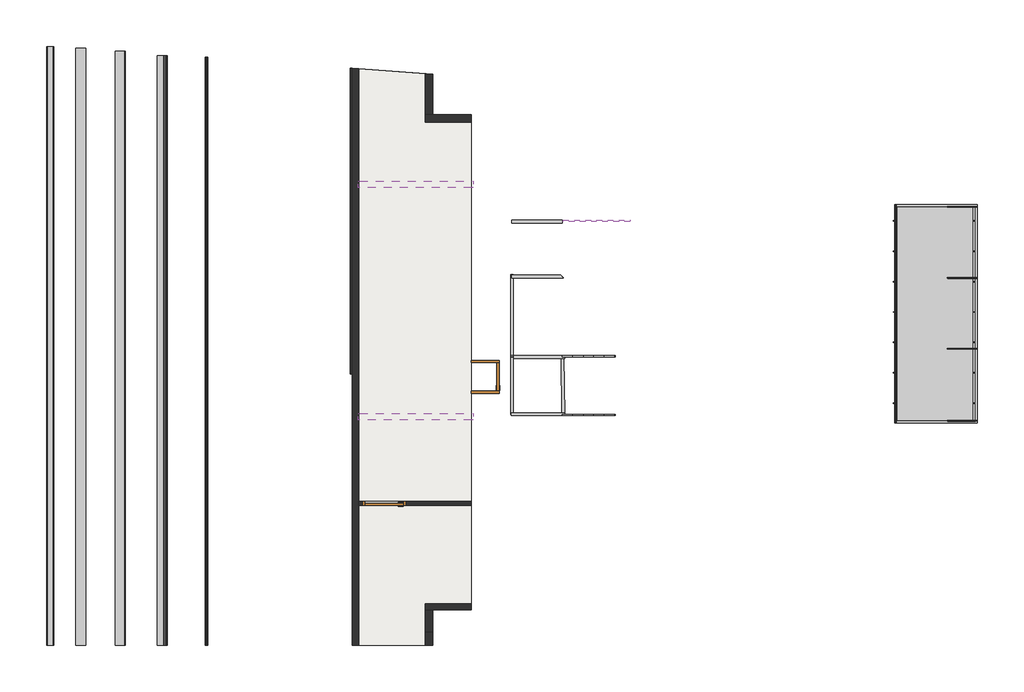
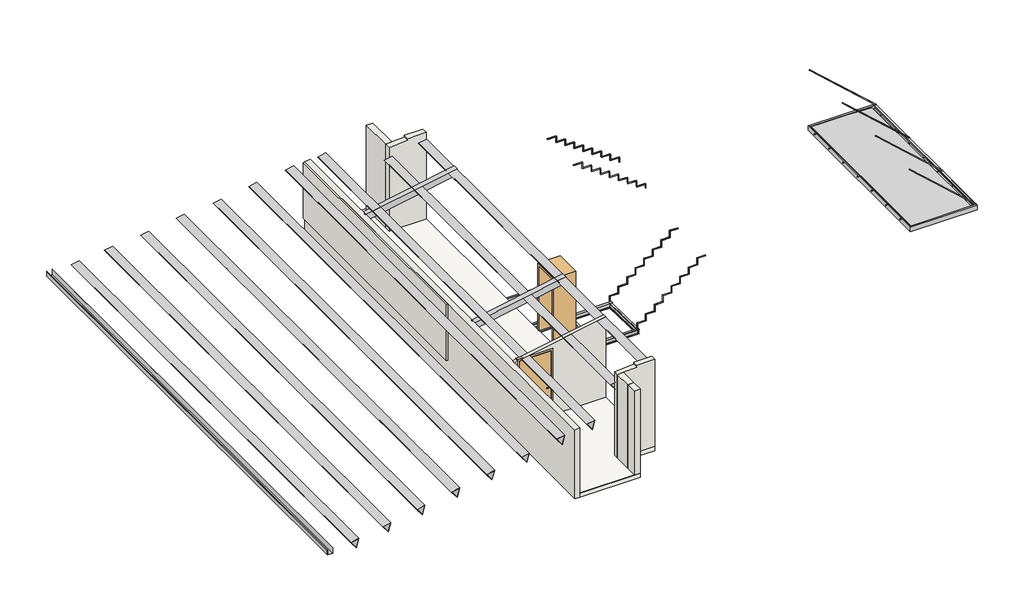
# One storey, incomplete: 12 beams, 8 walls, 2 doors, 2 slabs, 1 pipe segment, 1 proxy.
"""IFC4 building model written with IfcOpenShell, lengths in millimetres."""

from ifc_helpers import new_model, si_unit, point, frame, frame_2d, origin, place, context, project, spatial, polyline, circle_curve, ellipse_curve, trimmed, segment, composite_curve, outline, extrude, faceted_brep, transform, mapped, element, save
from ifc_brep_helpers import plane_surface, cylinder_surface, revolved_surface, advanced_brep
from components import beam_c8093c8f, beam_2914460d, beam_b3c854cd, beam_200x150_8261f542, arq_ale_ext_tipo_1_15934bc5, door_2f19a653, door_720fac4b

model = new_model("IFC4")

# Units and contexts
model_context = context("Model", 3, world=origin())
ifc_project = project(units=[si_unit("LENGTHUNIT", "METRE", prefix="MILLI")], contexts=[model_context])

# Site, building, storey
site = spatial("IfcSite", under=ifc_project)
building = spatial("IfcBuilding", under=site)
storey = spatial("IfcBuildingStorey", under=building, Name="Entrepiso_NPT", Elevation=3210.0)

# Beams
placement = place(None, origin())
beam_shape = beam_c8093c8f(model_context)
element("IfcBeam", 1, ObjectType="Armazón estructural 7 : Armazón estructural 7", at=placement, inside=storey, context=model_context, shape_type="MappedRepresentation", body=[
    mapped(beam_shape, transform((0.0, 0.0, 0.0), x_axis=(1.0, 0.0, 0.0), y_axis=(0.0, 1.0, 0.0), z_axis=(0.0, 0.0, 1.0))),
])
beam_2_shape = beam_2914460d(model_context)
element("IfcBeam", 2, ObjectType="Armazón estructural 10 : Armazón estructural 10", at=placement, inside=storey, context=model_context, shape_type="MappedRepresentation", body=[
    mapped(beam_2_shape, transform((0.0, 0.0, 0.0), x_axis=(1.0, 0.0, 0.0), y_axis=(0.0, 1.0, 0.0), z_axis=(0.0, 0.0, 1.0))),
])
beam_3_shape = beam_b3c854cd(model_context)
element("IfcBeam", 3, ObjectType="Armazón estructural 6 : Armazón estructural 3", at=placement, inside=storey, context=model_context, shape_type="MappedRepresentation", body=[
    mapped(beam_3_shape, transform((0.0, 0.0, 0.0), x_axis=(1.0, 0.0, 0.0), y_axis=(0.0, 1.0, 0.0), z_axis=(0.0, 0.0, 1.0))),
])
beam_200x150_shape = beam_200x150_8261f542(model_context)
element("IfcBeam", 4, ObjectType="Hormigón-Viga rectangular : 200x150", at=placement, inside=storey, context=model_context, shape_type="MappedRepresentation", body=[
    mapped(beam_200x150_shape, transform((4007.5698987, 7114.9690313, 5411.636762), x_axis=(0.9836323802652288, 0.0, 0.18018695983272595), y_axis=(0.0, 1.0, 0.0), z_axis=(-0.18018695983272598, 0.0, 0.9836323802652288))),
])
element("IfcBeam", 5, ObjectType="Hormigón-Viga rectangular : 200x150", at=placement, inside=storey, context=model_context, shape_type="MappedRepresentation", body=[
    mapped(beam_200x150_shape, transform((4007.5698987, 1469.0183345, 5411.636762), x_axis=(0.9836323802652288, 0.0, 0.18018695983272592), y_axis=(0.0, 1.0, 0.0), z_axis=(-0.18018695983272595, 0.0, 0.9836323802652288))),
])
element("IfcBeam", 6, ObjectType="IPN - Secciones en I con alas cónicas : IPN 140", at=placement, inside=storey, context=model_context, shape_type="SweptSolid", body=[
    extrude(outline(composite_curve([segment(polyline([(1496.342606, 3239.725), (1562.342606, 3239.725), (1562.342606, 3236.3921583)]), True, "CONTINUOUS"), segment(trimmed(circle_curve(frame_2d((1558.942606, 3236.3921583)), 3.4), [point((1562.342606, 3236.3921583))], [point((1559.4140086, 3233.0249964))], False, "CARTESIAN"), True, "CONTINUOUS"), segment(polyline([(1559.4140086, 3233.0249964), (1537.1023132, 3229.901359)]), True, "CONTINUOUS"), segment(trimmed(circle_curve(frame_2d((1537.892606, 3224.2564111)), 5.7), [point((1537.1023132, 3229.901359))], [point((1532.192606, 3224.2564111))], True, "CARTESIAN"), True, "CONTINUOUS"), segment(polyline([(1532.192606, 3224.2564111), (1532.192606, 3115.1935889)]), True, "CONTINUOUS"), segment(trimmed(circle_curve(frame_2d((1537.892606, 3115.1935889)), 5.7), [point((1532.192606, 3115.1935889))], [point((1537.1023132, 3109.548641))], True, "CARTESIAN"), True, "CONTINUOUS"), segment(polyline([(1537.1023132, 3109.548641), (1559.4140086, 3106.4250036)]), True, "CONTINUOUS"), segment(trimmed(circle_curve(frame_2d((1558.942606, 3103.0578417)), 3.4), [point((1559.4140086, 3106.4250036))], [point((1562.342606, 3103.0578417))], False, "CARTESIAN"), True, "CONTINUOUS"), segment(polyline([(1562.342606, 3103.0578417), (1562.342606, 3099.725), (1496.342606, 3099.725), (1496.342606, 3103.0578417)]), True, "CONTINUOUS"), segment(trimmed(circle_curve(frame_2d((1499.742606, 3103.0578417)), 3.4), [point((1496.342606, 3103.0578417))], [point((1499.2712033, 3106.4250036))], False, "CARTESIAN"), True, "CONTINUOUS"), segment(polyline([(1499.2712033, 3106.4250036), (1521.5828987, 3109.548641)]), True, "CONTINUOUS"), segment(trimmed(circle_curve(frame_2d((1520.792606, 3115.1935889)), 5.7), [point((1521.5828987, 3109.548641))], [point((1526.492606, 3115.1935889))], True, "CARTESIAN"), True, "CONTINUOUS"), segment(polyline([(1526.492606, 3115.1935889), (1526.492606, 3224.2564111)]), True, "CONTINUOUS"), segment(trimmed(circle_curve(frame_2d((1520.792606, 3224.2564111)), 5.7), [point((1526.492606, 3224.2564111))], [point((1521.5828987, 3229.901359))], True, "CARTESIAN"), True, "CONTINUOUS"), segment(polyline([(1521.5828987, 3229.901359), (1499.2712033, 3233.0249964)]), True, "CONTINUOUS"), segment(trimmed(circle_curve(frame_2d((1499.742606, 3236.3921583)), 3.4), [point((1499.2712033, 3233.0249964))], [point((1496.342606, 3236.3921583))], False, "CARTESIAN"), True, "CONTINUOUS"), segment(polyline([(1496.342606, 3236.3921583), (1496.342606, 3239.725)]), True, "CONTINUOUS")], self_intersect=False)), frame((6328.8126262, 0.0, 0.0), z_axis=(1.0, 0.0, 0.0), x_axis=(0.0, 1.0, 0.0)), (0.0, 0.0, 1.0), 1299.5719221),
])
element("IfcBeam", 7, ObjectType="IPN - Secciones en I con alas cónicas : IPN 140", at=placement, inside=storey, context=model_context, shape_type="SweptSolid", body=[
    extrude(outline(composite_curve([segment(polyline([(3239.725, 6380.8126262), (3239.725, 6314.8126262), (3236.3921583, 6314.8126262)]), True, "CONTINUOUS"), segment(trimmed(circle_curve(frame_2d((3236.3921583, 6318.2126262)), 3.4), [point((3236.3921583, 6314.8126262))], [point((3233.0249964, 6317.7412235))], False, "CARTESIAN"), True, "CONTINUOUS"), segment(polyline([(3233.0249964, 6317.7412235), (3229.901359, 6340.0529189)]), True, "CONTINUOUS"), segment(trimmed(circle_curve(frame_2d((3224.2564111, 6339.2626262)), 5.7), [point((3229.901359, 6340.0529189))], [point((3224.2564111, 6344.9626262))], True, "CARTESIAN"), True, "CONTINUOUS"), segment(polyline([(3224.2564111, 6344.9626262), (3115.1935889, 6344.9626262)]), True, "CONTINUOUS"), segment(trimmed(circle_curve(frame_2d((3115.1935889, 6339.2626262)), 5.7), [point((3115.1935889, 6344.9626262))], [point((3109.548641, 6340.0529189))], True, "CARTESIAN"), True, "CONTINUOUS"), segment(polyline([(3109.548641, 6340.0529189), (3106.4250036, 6317.7412235)]), True, "CONTINUOUS"), segment(trimmed(circle_curve(frame_2d((3103.0578417, 6318.2126262)), 3.4), [point((3106.4250036, 6317.7412235))], [point((3103.0578417, 6314.8126262))], False, "CARTESIAN"), True, "CONTINUOUS"), segment(polyline([(3103.0578417, 6314.8126262), (3099.725, 6314.8126262), (3099.725, 6380.8126262), (3103.0578417, 6380.8126262)]), True, "CONTINUOUS"), segment(trimmed(circle_curve(frame_2d((3103.0578417, 6377.4126262)), 3.4), [point((3103.0578417, 6380.8126262))], [point((3106.4250036, 6377.8840289))], False, "CARTESIAN"), True, "CONTINUOUS"), segment(polyline([(3106.4250036, 6377.8840289), (3109.548641, 6355.5723335)]), True, "CONTINUOUS"), segment(trimmed(circle_curve(frame_2d((3115.1935889, 6356.3626262)), 5.7), [point((3109.548641, 6355.5723335))], [point((3115.1935889, 6350.6626262))], True, "CARTESIAN"), True, "CONTINUOUS"), segment(polyline([(3115.1935889, 6350.6626262), (3224.2564111, 6350.6626262)]), True, "CONTINUOUS"), segment(trimmed(circle_curve(frame_2d((3224.2564111, 6356.3626262)), 5.7), [point((3224.2564111, 6350.6626262))], [point((3229.901359, 6355.5723335))], True, "CARTESIAN"), True, "CONTINUOUS"), segment(polyline([(3229.901359, 6355.5723335), (3233.0249964, 6377.8840289)]), True, "CONTINUOUS"), segment(trimmed(circle_curve(frame_2d((3236.3921583, 6377.4126262)), 3.4), [point((3233.0249964, 6377.8840289))], [point((3236.3921583, 6380.8126262))], False, "CARTESIAN"), True, "CONTINUOUS"), segment(polyline([(3236.3921583, 6380.8126262), (3239.725, 6380.8126262)]), True, "CONTINUOUS")], self_intersect=False)), frame((0.0, 1519.672073, 0.0), z_axis=(0.0, 1.0, 0.0), x_axis=(0.0, 0.0, 1.0)), (0.0, 0.0, 1.0), 1432.0),
])
element("IfcBeam", 8, ObjectType="IPN - Secciones en I con alas cónicas : IPN 140", at=placement, inside=storey, context=model_context, shape_type="AdvancedBrep", body=[
    advanced_brep(
    [(6348.2055034, 4844.3572273, 1800.275), (6348.2055034, 4910.3572273, 1800.275), (6348.2055034, 4910.3572273, 1796.9421583), (6348.2055034, 4907.42863, 1793.5749964), (6348.2055034, 4885.1169346, 1790.451359), (6348.2055034, 4880.2072273, 1784.8064111), (6348.2055034, 4880.2072273, 1675.7435889), (6348.2055034, 4885.1169346, 1670.098641), (6348.2055034, 4907.42863, 1666.9750036), (6348.2055034, 4910.3572273, 1663.6078417), (6348.2055034, 4910.3572273, 1660.275), (6348.2055034, 4844.3572273, 1660.275), (6348.2055034, 4844.3572273, 1663.6078417), (6348.2055034, 4847.2858246, 1666.9750036), (6348.2055034, 4869.59752, 1670.098641), (6348.2055034, 4874.5072273, 1675.7435889), (6348.2055034, 4874.5072273, 1784.8064111), (6348.2055034, 4869.59752, 1790.451359), (6348.2055034, 4847.2858246, 1793.5749964), (6348.2055034, 4844.3572273, 1796.9421583), (7599.5983807, 4844.3572273, 1796.9421583), (7599.5983807, 4844.3572273, 1800.275), (7596.6697834, 4847.2858246, 1793.5749964), (7574.358088, 4869.59752, 1790.451359), (7569.4483807, 4874.5072273, 1784.8064111), (7569.4483807, 4874.5072273, 1675.7435889), (7574.358088, 4869.59752, 1670.098641), (7596.6697834, 4847.2858246, 1666.9750036), (7599.5983807, 4844.3572273, 1663.6078417), (7599.5983807, 4844.3572273, 1660.275), (7533.5983807, 4910.3572273, 1660.275), (7533.5983807, 4910.3572273, 1663.6078417), (7536.526978, 4907.42863, 1666.9750036), (7558.8386734, 4885.1169346, 1670.098641), (7563.7483807, 4880.2072273, 1675.7435889), (7563.7483807, 4880.2072273, 1784.8064111), (7558.8386734, 4885.1169346, 1790.451359), (7536.526978, 4907.42863, 1793.5749964), (7533.5983807, 4910.3572273, 1796.9421583), (7533.5983807, 4910.3572273, 1800.275)],
    [
        (0, 1),
        (1, 2),
        (2, 3, circle_curve(frame((6348.2055034, 4906.9572273, 1796.9421583), z_axis=(-1.0, 0.0, 0.0), x_axis=(0.0, -1.0, 0.0)), 3.4)),
        (3, 4),
        (4, 5, circle_curve(frame((6348.2055034, 4885.9072273, 1784.8064111), z_axis=(1.0, 0.0, 0.0), x_axis=(0.0, -1.0, 0.0)), 5.7)),
        (5, 6),
        (6, 7, circle_curve(frame((6348.2055034, 4885.9072273, 1675.7435889), z_axis=(1.0, 0.0, 0.0), x_axis=(0.0, -1.0, 0.0)), 5.7)),
        (7, 8),
        (8, 9, circle_curve(frame((6348.2055034, 4906.9572273, 1663.6078417), z_axis=(-1.0, 0.0, 0.0), x_axis=(0.0, -1.0, 0.0)), 3.4)),
        (9, 10),
        (10, 11),
        (11, 12),
        (12, 13, circle_curve(frame((6348.2055034, 4847.7572273, 1663.6078417), z_axis=(-1.0, 0.0, 0.0), x_axis=(0.0, -1.0, 0.0)), 3.4)),
        (13, 14),
        (14, 15, circle_curve(frame((6348.2055034, 4868.8072273, 1675.7435889), z_axis=(1.0, 0.0, 0.0), x_axis=(0.0, -1.0, 0.0)), 5.7)),
        (15, 16),
        (16, 17, circle_curve(frame((6348.2055034, 4868.8072273, 1784.8064111), z_axis=(1.0, 0.0, 0.0), x_axis=(0.0, -1.0, 0.0)), 5.7)),
        (17, 18),
        (18, 19, circle_curve(frame((6348.2055034, 4847.7572273, 1796.9421583), z_axis=(-1.0, 0.0, 0.0), x_axis=(0.0, -1.0, 0.0)), 3.4)),
        (19, 0),
        (19, 20),
        (20, 21),
        (21, 0),
        (18, 22),
        (22, 20, ellipse_curve(frame((7596.1983807, 4847.7572273, 1796.9421583), z_axis=(-0.7071067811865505, -0.7071067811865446, 0.0), x_axis=(-0.7071067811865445, 0.7071067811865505, 0.0)), 4.8083261, 3.4)),
        (17, 23),
        (23, 22),
        (16, 24),
        (24, 23, ellipse_curve(frame((7575.1483807, 4868.8072273, 1784.8064111), z_axis=(0.7071067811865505, 0.7071067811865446, 0.0), x_axis=(0.7071067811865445, -0.7071067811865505, 0.0)), 8.0610173, 5.7)),
        (15, 25),
        (25, 24),
        (14, 26),
        (26, 25, ellipse_curve(frame((7575.1483807, 4868.8072273, 1675.7435889), z_axis=(0.7071067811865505, 0.7071067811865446, 0.0), x_axis=(0.7071067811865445, -0.7071067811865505, 0.0)), 8.0610173, 5.7)),
        (13, 27),
        (27, 26),
        (12, 28),
        (28, 27, ellipse_curve(frame((7596.1983807, 4847.7572273, 1663.6078417), z_axis=(-0.7071067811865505, -0.7071067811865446, 0.0), x_axis=(-0.7071067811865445, 0.7071067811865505, 0.0)), 4.8083261, 3.4)),
        (11, 29),
        (29, 28),
        (10, 30),
        (30, 29),
        (9, 31),
        (31, 30),
        (8, 32),
        (32, 31, ellipse_curve(frame((7536.9983807, 4906.9572273, 1663.6078417), z_axis=(-0.7071067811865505, -0.7071067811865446, 0.0), x_axis=(-0.7071067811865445, 0.7071067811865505, 0.0)), 4.8083261, 3.4)),
        (7, 33),
        (33, 32),
        (6, 34),
        (34, 33, ellipse_curve(frame((7558.0483807, 4885.9072273, 1675.7435889), z_axis=(0.7071067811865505, 0.7071067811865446, 0.0), x_axis=(0.7071067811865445, -0.7071067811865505, 0.0)), 8.0610173, 5.7)),
        (5, 35),
        (35, 34),
        (4, 36),
        (36, 35, ellipse_curve(frame((7558.0483807, 4885.9072273, 1784.8064111), z_axis=(0.7071067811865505, 0.7071067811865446, 0.0), x_axis=(0.7071067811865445, -0.7071067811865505, 0.0)), 8.0610173, 5.7)),
        (3, 37),
        (37, 36),
        (2, 38),
        (38, 37, ellipse_curve(frame((7536.9983807, 4906.9572273, 1796.9421583), z_axis=(-0.7071067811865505, -0.7071067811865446, 0.0), x_axis=(-0.7071067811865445, 0.7071067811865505, 0.0)), 4.8083261, 3.4)),
        (1, 39),
        (39, 38),
        (21, 39),
    ],
    [
        plane_surface(frame((6348.2055034, 4877.3572273, 1730.275), z_axis=(-1.0, 0.0, 0.0), x_axis=(0.0, 0.0, 1.0))),
        plane_surface(frame((6348.2055034, 4844.3572273, 1800.275), z_axis=(0.0, -1.0, 0.0), x_axis=(1.0, 0.0, 0.0))),
        cylinder_surface(frame((6348.2055034, 4847.7572273, 1796.9421583), z_axis=(-1.0, 0.0, 0.0), x_axis=(0.0, -1.0, 0.0)), 3.4),
        plane_surface(frame((6348.2055034, 4860.8572273, 1791.675), z_axis=(0.0, -0.13864784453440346, -0.9903417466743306), x_axis=(1.0, 0.0, 0.0))),
        revolved_surface(polyline([(7580.848380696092, 4863.1072273, 1784.8064111), (6348.2055034, 4863.1072273, 1784.8064111)]), (6348.2055034, 4868.8072273, 1784.8064111), (1.0, 0.0, 0.0)),
        plane_surface(frame((6348.2055034, 4874.5072273, 1784.8064111), z_axis=(0.0, -1.0, 0.0), x_axis=(1.0, 0.0, 0.0))),
        revolved_surface(polyline([(7580.848380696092, 4863.1072273, 1675.7435889), (6348.2055034, 4863.1072273, 1675.7435889)]), (6348.2055034, 4868.8072273, 1675.7435889), (1.0, 0.0, 0.0)),
        plane_surface(frame((6348.2055034, 4860.8572273, 1668.875), z_axis=(0.0, -0.1386478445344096, 0.9903417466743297), x_axis=(1.0, 0.0, 0.0))),
        cylinder_surface(frame((6348.2055034, 4847.7572273, 1663.6078417), z_axis=(-1.0, 0.0, 0.0), x_axis=(0.0, -1.0, 0.0)), 3.4),
        plane_surface(frame((6348.2055034, 4844.3572273, 1663.6078417), z_axis=(0.0, -1.0, 0.0), x_axis=(1.0, 0.0, 0.0))),
        plane_surface(frame((6348.2055034, 4844.3572273, 1660.275), z_axis=(0.0, 0.0, -1.0), x_axis=(1.0, 0.0, 0.0))),
        plane_surface(frame((6348.2055034, 4910.3572273, 1660.275), z_axis=(0.0, 1.0, 0.0), x_axis=(1.0, 0.0, 0.0))),
        cylinder_surface(frame((6348.2055034, 4906.9572273, 1663.6078417), z_axis=(-1.0, 0.0, 0.0), x_axis=(0.0, -1.0, 0.0)), 3.4),
        plane_surface(frame((6348.2055034, 4893.8572273, 1668.875), z_axis=(0.0, 0.13864784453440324, 0.9903417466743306), x_axis=(1.0, 0.0, 0.0))),
        revolved_surface(polyline([(7563.7483807, 4880.2072273, 1675.7435889), (6348.2055034, 4880.2072273, 1675.7435889)]), (6348.2055034, 4885.9072273, 1675.7435889), (1.0, 0.0, 0.0)),
        plane_surface(frame((6348.2055034, 4880.2072273, 1675.7435889), z_axis=(0.0, 1.0, 0.0), x_axis=(1.0, 0.0, 0.0))),
        revolved_surface(polyline([(7563.7483807, 4880.2072273, 1784.8064111), (6348.2055034, 4880.2072273, 1784.8064111)]), (6348.2055034, 4885.9072273, 1784.8064111), (1.0, 0.0, 0.0)),
        plane_surface(frame((6348.2055034, 4893.8572273, 1791.675), z_axis=(0.0, 0.1386478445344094, -0.9903417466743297), x_axis=(1.0, 0.0, 0.0))),
        cylinder_surface(frame((6348.2055034, 4906.9572273, 1796.9421583), z_axis=(-1.0, 0.0, 0.0), x_axis=(0.0, -1.0, 0.0)), 3.4),
        plane_surface(frame((6348.2055034, 4910.3572273, 1796.9421583), z_axis=(0.0, 1.0, 0.0), x_axis=(1.0, 0.0, 0.0))),
        plane_surface(frame((6348.2055034, 4910.3572273, 1800.275), z_axis=(0.0, 0.0, 1.0), x_axis=(1.0, 0.0, 0.0))),
        plane_surface(frame((7533.5983807, 4910.3572273, 1800.275), z_axis=(0.7071067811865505, 0.7071067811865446, 0.0), x_axis=(0.7071067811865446, -0.7071067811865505, 0.0))),
    ],
    [
        (0, [[1, 2, 3, 4, 5, 6, 7, 8, 9, 10, 11, 12, 13, 14, 15, 16, 17, 18, 19, 20]]),
        (1, [[21, 22, 23, -20]]),
        (2, [[24, 25, -21, -19]]),
        (3, [[-18, 26, 27, -24]]),
        (4, [[28, 29, -26, -17]]),
        (5, [[30, 31, -28, -16]]),
        (6, [[32, 33, -30, -15]]),
        (7, [[-14, 34, 35, -32]]),
        (8, [[36, 37, -34, -13]]),
        (9, [[38, 39, -36, -12]]),
        (10, [[40, 41, -38, -11]]),
        (11, [[42, 43, -40, -10]]),
        (12, [[44, 45, -42, -9]]),
        (13, [[-8, 46, 47, -44]]),
        (14, [[48, 49, -46, -7]]),
        (15, [[50, 51, -48, -6]]),
        (16, [[52, 53, -50, -5]]),
        (17, [[-4, 54, 55, -52]]),
        (18, [[56, 57, -54, -3]]),
        (19, [[58, 59, -56, -2]]),
        (20, [[-23, 60, -58, -1]]),
        (21, [[-22, -25, -27, -29, -31, -33, -35, -37, -39, -41, -43, -45, -47, -49, -51, -53, -55, -57, -59, -60]]),
    ],
),
])
element("IfcBeam", 9, ObjectType="IPN - Secciones en I con alas cónicas : IPN 140", at=placement, inside=storey, context=model_context, shape_type="SweptSolid", body=[
    extrude(outline(composite_curve([segment(polyline([(6178.6250843, 1800.275), (6244.6250843, 1800.275), (6244.6250843, 1796.9421583)]), True, "CONTINUOUS"), segment(trimmed(circle_curve(frame_2d((6241.2250843, 1796.9421583)), 3.4), [point((6244.6250843, 1796.9421583))], [point((6241.6964869, 1793.5749964))], False, "CARTESIAN"), True, "CONTINUOUS"), segment(polyline([(6241.6964869, 1793.5749964), (6219.3847915, 1790.451359)]), True, "CONTINUOUS"), segment(trimmed(circle_curve(frame_2d((6220.1750843, 1784.8064111)), 5.7), [point((6219.3847915, 1790.451359))], [point((6214.4750843, 1784.8064111))], True, "CARTESIAN"), True, "CONTINUOUS"), segment(polyline([(6214.4750843, 1784.8064111), (6214.4750843, 1675.7435889)]), True, "CONTINUOUS"), segment(trimmed(circle_curve(frame_2d((6220.1750843, 1675.7435889)), 5.7), [point((6214.4750843, 1675.7435889))], [point((6219.3847915, 1670.098641))], True, "CARTESIAN"), True, "CONTINUOUS"), segment(polyline([(6219.3847915, 1670.098641), (6241.6964869, 1666.9750036)]), True, "CONTINUOUS"), segment(trimmed(circle_curve(frame_2d((6241.2250843, 1663.6078417)), 3.4), [point((6241.6964869, 1666.9750036))], [point((6244.6250843, 1663.6078417))], False, "CARTESIAN"), True, "CONTINUOUS"), segment(polyline([(6244.6250843, 1663.6078417), (6244.6250843, 1660.275), (6178.6250843, 1660.275), (6178.6250843, 1663.6078417)]), True, "CONTINUOUS"), segment(trimmed(circle_curve(frame_2d((6182.0250843, 1663.6078417)), 3.4), [point((6178.6250843, 1663.6078417))], [point((6181.5536816, 1666.9750036))], False, "CARTESIAN"), True, "CONTINUOUS"), segment(polyline([(6181.5536816, 1666.9750036), (6203.865377, 1670.098641)]), True, "CONTINUOUS"), segment(trimmed(circle_curve(frame_2d((6203.0750843, 1675.7435889)), 5.7), [point((6203.865377, 1670.098641))], [point((6208.7750843, 1675.7435889))], True, "CARTESIAN"), True, "CONTINUOUS"), segment(polyline([(6208.7750843, 1675.7435889), (6208.7750843, 1784.8064111)]), True, "CONTINUOUS"), segment(trimmed(circle_curve(frame_2d((6203.0750843, 1784.8064111)), 5.7), [point((6208.7750843, 1784.8064111))], [point((6203.865377, 1790.451359))], True, "CARTESIAN"), True, "CONTINUOUS"), segment(polyline([(6203.865377, 1790.451359), (6181.5536816, 1793.5749964)]), True, "CONTINUOUS"), segment(trimmed(circle_curve(frame_2d((6182.0250843, 1796.9421583)), 3.4), [point((6181.5536816, 1793.5749964))], [point((6178.6250843, 1796.9421583))], False, "CARTESIAN"), True, "CONTINUOUS"), segment(polyline([(6178.6250843, 1796.9421583), (6178.6250843, 1800.275)]), True, "CONTINUOUS")], self_intersect=False)), frame((6348.2055034, 0.0, 0.0), z_axis=(1.0, 0.0, 0.0), x_axis=(0.0, 1.0, 0.0)), (0.0, 0.0, 1.0), 1220.85),
])
element("IfcBeam", 10, ObjectType="IPN - Secciones en I con alas cónicas : IPN 140", at=placement, inside=storey, context=model_context, shape_type="SweptSolid", body=[
    extrude(outline(composite_curve([segment(polyline([(2885.7500845, 3239.725), (2951.7500845, 3239.725), (2951.7500845, 3236.3921583)]), True, "CONTINUOUS"), segment(trimmed(circle_curve(frame_2d((2948.3500845, 3236.3921583)), 3.4), [point((2951.7500845, 3236.3921583))], [point((2948.8214872, 3233.0249964))], False, "CARTESIAN"), True, "CONTINUOUS"), segment(polyline([(2948.8214872, 3233.0249964), (2926.5097918, 3229.901359)]), True, "CONTINUOUS"), segment(trimmed(circle_curve(frame_2d((2927.3000845, 3224.2564111)), 5.7), [point((2926.5097918, 3229.901359))], [point((2921.6000845, 3224.2564111))], True, "CARTESIAN"), True, "CONTINUOUS"), segment(polyline([(2921.6000845, 3224.2564111), (2921.6000845, 3115.1935889)]), True, "CONTINUOUS"), segment(trimmed(circle_curve(frame_2d((2927.3000845, 3115.1935889)), 5.7), [point((2921.6000845, 3115.1935889))], [point((2926.5097918, 3109.548641))], True, "CARTESIAN"), True, "CONTINUOUS"), segment(polyline([(2926.5097918, 3109.548641), (2948.8214872, 3106.4250036)]), True, "CONTINUOUS"), segment(trimmed(circle_curve(frame_2d((2948.3500845, 3103.0578417)), 3.4), [point((2948.8214872, 3106.4250036))], [point((2951.7500845, 3103.0578417))], False, "CARTESIAN"), True, "CONTINUOUS"), segment(polyline([(2951.7500845, 3103.0578417), (2951.7500845, 3099.725), (2885.7500845, 3099.725), (2885.7500845, 3103.0578417)]), True, "CONTINUOUS"), segment(trimmed(circle_curve(frame_2d((2889.1500845, 3103.0578417)), 3.4), [point((2885.7500845, 3103.0578417))], [point((2888.6786818, 3106.4250036))], False, "CARTESIAN"), True, "CONTINUOUS"), segment(polyline([(2888.6786818, 3106.4250036), (2910.9903772, 3109.548641)]), True, "CONTINUOUS"), segment(trimmed(circle_curve(frame_2d((2910.2000845, 3115.1935889)), 5.7), [point((2910.9903772, 3109.548641))], [point((2915.9000845, 3115.1935889))], True, "CARTESIAN"), True, "CONTINUOUS"), segment(polyline([(2915.9000845, 3115.1935889), (2915.9000845, 3224.2564111)]), True, "CONTINUOUS"), segment(trimmed(circle_curve(frame_2d((2910.2000845, 3224.2564111)), 5.7), [point((2915.9000845, 3224.2564111))], [point((2910.9903772, 3229.901359))], True, "CARTESIAN"), True, "CONTINUOUS"), segment(polyline([(2910.9903772, 3229.901359), (2888.6786818, 3233.0249964)]), True, "CONTINUOUS"), segment(trimmed(circle_curve(frame_2d((2889.1500845, 3236.3921583)), 3.4), [point((2888.6786818, 3233.0249964))], [point((2885.7500845, 3236.3921583))], False, "CARTESIAN"), True, "CONTINUOUS"), segment(polyline([(2885.7500845, 3236.3921583), (2885.7500845, 3239.725)]), True, "CONTINUOUS")], self_intersect=False)), frame((6336.1984951, 0.0, 0.0), z_axis=(1.0, 0.0, 0.0), x_axis=(0.0, 1.0, 0.0)), (0.0, 0.0, 1.0), 1292.0),
])
element("IfcBeam", 11, ObjectType="IPN - Secciones en I con alas cónicas : IPN 140", at=placement, inside=storey, context=model_context, shape_type="SweptSolid", body=[
    extrude(outline(composite_curve([segment(polyline([(70.0, 33.0), (70.0, -33.0), (66.6671583, -33.0)]), True, "CONTINUOUS"), segment(trimmed(circle_curve(frame_2d((66.6671583, -29.6)), 3.4), [point((66.6671583, -33.0))], [point((63.2999964, -30.0714027))], False, "CARTESIAN"), True, "CONTINUOUS"), segment(polyline([(63.2999964, -30.0714027), (60.176359, -7.7597073)]), True, "CONTINUOUS"), segment(trimmed(circle_curve(frame_2d((54.5314111, -8.55)), 5.7), [point((60.176359, -7.7597073))], [point((54.5314111, -2.8500001))], True, "CARTESIAN"), True, "CONTINUOUS"), segment(polyline([(54.5314111, -2.8500001), (-54.5314111, -2.8500001)]), True, "CONTINUOUS"), segment(trimmed(circle_curve(frame_2d((-54.5314111, -8.55)), 5.7), [point((-54.5314111, -2.8500001))], [point((-60.176359, -7.7597073))], True, "CARTESIAN"), True, "CONTINUOUS"), segment(polyline([(-60.176359, -7.7597073), (-63.2999964, -30.0714027)]), True, "CONTINUOUS"), segment(trimmed(circle_curve(frame_2d((-66.6671583, -29.6)), 3.4), [point((-63.2999964, -30.0714027))], [point((-66.6671583, -33.0))], False, "CARTESIAN"), True, "CONTINUOUS"), segment(polyline([(-66.6671583, -33.0), (-70.0, -33.0), (-70.0, 33.0), (-66.6671583, 33.0)]), True, "CONTINUOUS"), segment(trimmed(circle_curve(frame_2d((-66.6671583, 29.6)), 3.4), [point((-66.6671583, 33.0))], [point((-63.2999964, 30.0714026))], False, "CARTESIAN"), True, "CONTINUOUS"), segment(polyline([(-63.2999964, 30.0714026), (-60.176359, 7.7597072)]), True, "CONTINUOUS"), segment(trimmed(circle_curve(frame_2d((-54.5314111, 8.55)), 5.7), [point((-60.176359, 7.7597072))], [point((-54.5314111, 2.85))], True, "CARTESIAN"), True, "CONTINUOUS"), segment(polyline([(-54.5314111, 2.85), (54.5314111, 2.85)]), True, "CONTINUOUS"), segment(trimmed(circle_curve(frame_2d((54.5314111, 8.55)), 5.7), [point((54.5314111, 2.85))], [point((60.176359, 7.7597072))], True, "CARTESIAN"), True, "CONTINUOUS"), segment(polyline([(60.176359, 7.7597072), (63.2999964, 30.0714026)]), True, "CONTINUOUS"), segment(trimmed(circle_curve(frame_2d((66.6671583, 29.6)), 3.4), [point((63.2999964, 30.0714026))], [point((66.6671583, 33.0))], False, "CARTESIAN"), True, "CONTINUOUS"), segment(polyline([(66.6671583, 33.0), (70.0, 33.0)]), True, "CONTINUOUS")], self_intersect=False)), frame((7594.8126262, 1529.342606, 3169.725), z_axis=(-0.01599632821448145, 0.9998720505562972, 0.0), x_axis=(0.0, 0.0, 1.0)), (0.0, 0.0, 1.0), 1389.5852752),
])
element("IfcBeam", 12, ObjectType="IPN - Secciones en I con alas cónicas : IPN 140", at=placement, inside=storey, context=model_context, shape_type="SweptSolid", body=[
    extrude(outline(composite_curve([segment(polyline([(70.0, -33.0), (66.6671583, -33.0)]), True, "CONTINUOUS"), segment(trimmed(circle_curve(frame_2d((66.6671583, -29.6)), 3.4), [point((66.6671583, -33.0))], [point((63.2999964, -30.0714027))], False, "CARTESIAN"), True, "CONTINUOUS"), segment(polyline([(63.2999964, -30.0714027), (60.176359, -7.7597073)]), True, "CONTINUOUS"), segment(trimmed(circle_curve(frame_2d((54.531411, -8.55)), 5.7), [point((60.176359, -7.7597073))], [point((54.531411, -2.85))], True, "CARTESIAN"), True, "CONTINUOUS"), segment(polyline([(54.531411, -2.85), (-54.5314111, -2.85)]), True, "CONTINUOUS"), segment(trimmed(circle_curve(frame_2d((-54.5314111, -8.55)), 5.7), [point((-54.5314111, -2.85))], [point((-60.176359, -7.7597073))], True, "CARTESIAN"), True, "CONTINUOUS"), segment(polyline([(-60.176359, -7.7597073), (-63.2999964, -30.0714027)]), True, "CONTINUOUS"), segment(trimmed(circle_curve(frame_2d((-66.6671583, -29.6)), 3.4), [point((-63.2999964, -30.0714027))], [point((-66.6671583, -33.0))], False, "CARTESIAN"), True, "CONTINUOUS"), segment(polyline([(-66.6671583, -33.0), (-70.0, -33.0), (-70.0, 33.0), (-66.6671583, 33.0)]), True, "CONTINUOUS"), segment(trimmed(circle_curve(frame_2d((-66.6671583, 29.6)), 3.4), [point((-66.6671583, 33.0))], [point((-63.2999964, 30.0714027))], False, "CARTESIAN"), True, "CONTINUOUS"), segment(polyline([(-63.2999964, 30.0714027), (-60.176359, 7.7597073)]), True, "CONTINUOUS"), segment(trimmed(circle_curve(frame_2d((-54.5314111, 8.55)), 5.7), [point((-60.176359, 7.7597073))], [point((-54.5314111, 2.85))], True, "CARTESIAN"), True, "CONTINUOUS"), segment(polyline([(-54.5314111, 2.85), (54.531411, 2.85)]), True, "CONTINUOUS"), segment(trimmed(circle_curve(frame_2d((54.531411, 8.55)), 5.7), [point((54.531411, 2.85))], [point((60.176359, 7.7597073))], True, "CARTESIAN"), True, "CONTINUOUS"), segment(polyline([(60.176359, 7.7597073), (63.2999964, 30.0714027)]), True, "CONTINUOUS"), segment(trimmed(circle_curve(frame_2d((66.6671583, 29.6)), 3.4), [point((63.2999964, 30.0714027))], [point((66.6671583, 33.0))], False, "CARTESIAN"), True, "CONTINUOUS"), segment(polyline([(66.6671583, 33.0), (70.0, 33.0), (70.0, -33.0)]), True, "CONTINUOUS")], self_intersect=False)), frame((6351.2897792, 4881.6479771, 1525.830559), z_axis=(0.0, -0.7706511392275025, 0.6372572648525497), x_axis=(0.0, 0.6372572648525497, 0.7706511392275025)), (0.0, 0.0, 1.0), 2604.7202482),
])

# Proxy
arq_ale_ext_tipo_1_shape = arq_ale_ext_tipo_1_15934bc5(model_context)
element("IfcBuildingElementProxy", 13, Name="ARQ-ALE-EXT : Tipo 1", ObjectType="ARQ-ALE-EXT : Tipo 1", at=placement, inside=storey, context=model_context, shape_type="MappedRepresentation", body=[
    mapped(arq_ale_ext_tipo_1_shape, transform((15304.8126262, 4093.607185, 3770.0), x_axis=(0.0, -1.0, 0.0), y_axis=(1.0, 0.0, 0.0), z_axis=(0.0, 0.0, 1.0))),
])

# Doors
door_shape = door_2f19a653(model_context)
element("IfcDoor", 14, ObjectType="ARQ-PU-INT-90x210-Mad-C3 : ARQ-PU-INT-80x210-Mad", at=placement, inside=storey, context=model_context, shape_type="MappedRepresentation", body=[
    mapped(door_shape, transform((5694.2897792, 2437.6072273, 3210.0), x_axis=(0.0, 1.0, 0.0), y_axis=(-1.0, 0.0, 0.0), z_axis=(0.0, 0.0, 1.0))),
])
door_2_shape = door_720fac4b(model_context)
element("IfcDoor", 15, ObjectType="ARQ-PU-INT-90x210-Mad-C3 : ARQ-PU-INT-95x210-Mad", at=placement, inside=storey, context=model_context, shape_type="MappedRepresentation", body=[
    mapped(door_2_shape, transform((3249.8126262, -636.3927727, 3210.0), x_axis=(-1.0, 0.0, 0.0), y_axis=(0.0, -1.0, 0.0), z_axis=(0.0, 0.0, 1.0))),
])

# Pipe segment
element("IfcPipeSegment", 16, ObjectType="Canalón", at=placement, inside=storey, context=model_context, shape_type="SweptSolid", body=[
    extrude(outline(polyline([(3881.9285036, -4785.1873738), (4051.9285036, -4785.1873738), (4051.9285036, -4788.3623738), (3885.1035036, -4788.3623738), (3885.1035036, -4939.3123738), (4029.7035036, -4939.3123738), (4029.7035036, -4952.0123738), (4036.0535036, -4952.0123738), (4036.0535036, -4942.4873738), (4039.2285036, -4942.4873738), (4039.2285036, -4955.1873738), (4026.5285036, -4955.1873738), (4026.5285036, -4942.4873738), (3881.9285036, -4942.4873738), (3881.9285036, -4785.1873738)])), frame((0.0, -4086.3927727, 0.0), z_axis=(0.0, 1.0, 0.0), x_axis=(0.0, 0.0, 1.0)), (0.0, 0.0, 1.0), 14551.8678801),
])

# Slabs
element("IfcSlab", 17, ObjectType="ARQ-SU-13-HoA", at=placement, inside=storey, context=model_context, shape_type="SweptSolid", body=[
    extrude(outline(polyline([(4424.8126262, 9791.2547169), (4424.8126262, 8803.6072273), (5354.2897792, 8803.6072273), (5354.2897792, -3226.3927727), (4424.8126262, -3226.3927727), (4424.8126262, -4086.3927727), (2624.8126262, -4086.3927727), (2624.8126262, 9923.0241743), (4424.8126262, 9791.2547169)])), frame((0.0, 0.0, 3060.0), z_axis=(0.0, 0.0, 1.0), x_axis=(1.0, 0.0, 0.0)), (0.0, 0.0, 1.0), 130.0),
])
element("IfcSlab", 18, ObjectType="ARQ-SU-2-Cer", at=placement, inside=storey, context=model_context, shape_type="SweptSolid", body=[
    extrude(outline(polyline([(4244.8126262, -4086.3927727), (2617.4067247, -4086.3927727), (2617.4067247, 9923.5663252), (4244.8126262, 9804.4316627), (4244.8126262, 8623.6072273), (5354.2897792, 8623.6072273), (5354.2897792, -3076.3927727), (4244.8126262, -3076.3927727), (4244.8126262, -4086.3927727)])), frame((0.0, 0.0, 3190.0), z_axis=(0.0, 0.0, 1.0), x_axis=(1.0, 0.0, 0.0)), (0.0, 0.0, 1.0), 20.0),
])

# Walls
element("IfcWall", 19, ObjectType="ARQ-MU-IN-15-Gen", at=placement, inside=storey, context=model_context, shape_type="Brep", body=[
    faceted_brep([(2474.8126262, 9934.0049625, 3060.0), (2474.8126262, -4086.3927727, 3060.0), (2474.8126262, -4086.3927727, 5236.8), (2474.8126262, 2154.5844917, 5236.8), (2474.8126262, 2204.5844917, 5236.8), (2474.8126262, 9934.0049625, 5236.8), (2624.8126262, 9923.0241743, 3060.0), (2624.8126262, 9923.0241743, 5263.8), (2624.8126262, -586.3927727, 5263.8), (2624.8126262, -686.3927727, 5263.8), (2624.8126262, -4086.3927727, 5263.8), (2624.8126262, -4086.3927727, 3060.0)], [[[0, 1, 2, 3, 4, 5]], [[6, 7, 8, 9, 10, 11]], [[1, 0, 6, 11]], [[2, 1, 11, 10]], [[0, 5, 7, 6]], [[5, 4, 3, 2, 10, 9, 8, 7]]]),
])
element("IfcWall", 20, ObjectType="ARQ-MU-IN-18-Gen", at=placement, inside=storey, context=model_context, shape_type="Brep", body=[
    faceted_brep([(5354.2897792, 8803.6072273, 3190.0), (4424.8126262, 8803.6072273, 3190.0), (4244.8126262, 8803.6072273, 3190.0), (4244.8126262, 8803.6072273, 5856.4313708), (4424.8126262, 8803.6072273, 5867.2313708), (4804.2897792, 8803.6072273, 5890.0), (4804.2897792, 8803.6072273, 5950.0), (5354.2897792, 8803.6072273, 5950.0), (5354.2897792, 8623.6072273, 3190.0), (5354.2897792, 8623.6072273, 5950.0), (4804.2897792, 8623.6072273, 5950.0), (4804.2897792, 8623.6072273, 5890.0), (4244.8126262, 8623.6072273, 5856.4313708), (4244.8126262, 8623.6072273, 3190.0)], [[[0, 1, 2, 3, 4, 5, 6, 7]], [[8, 9, 10, 11, 12, 13]], [[2, 1, 0, 8, 13]], [[3, 2, 13, 12]], [[7, 6, 10, 9]], [[10, 6, 5, 11]], [[5, 4, 3, 12, 11]], [[0, 7, 9, 8]]]),
])
element("IfcWall", 21, ObjectType="ARQ-MU-IN-18-Gen", at=placement, inside=storey, context=model_context, shape_type="Brep", body=[
    faceted_brep([(4424.8126262, 8803.6072273, 3190.0), (4424.8126262, 9791.2547169, 3190.0), (4424.8126262, 9791.2547169, 5867.2313708), (4424.8126262, 8803.6072273, 5867.2313708), (4244.8126262, 8803.6072273, 3190.0), (4244.8126262, 8803.6072273, 5856.4313708), (4244.8126262, 9804.4316627, 5856.4313708), (4244.8126262, 9804.4316627, 3190.0)], [[[0, 1, 2, 3]], [[4, 5, 6, 7]], [[1, 0, 4, 7]], [[0, 3, 5, 4]], [[2, 1, 7, 6]], [[3, 2, 6, 5]]]),
])
element("IfcWall", 22, ObjectType="ARQ-MU-IN-15-Gen", at=placement, inside=storey, context=model_context, shape_type="Brep", body=[
    faceted_brep([(5354.2897792, -3076.3927727, 3190.0), (4244.8126262, -3076.3927727, 3190.0), (4244.8126262, -3076.3927727, 5855.2313708), (4824.2897792, -3076.3927727, 5890.0), (4824.2897792, -3076.3927727, 5950.0), (5354.2897792, -3076.3927727, 5950.0), (5354.2897792, -3226.3927727, 3190.0), (5354.2897792, -3226.3927727, 5950.0), (4824.2897792, -3226.3927727, 5950.0), (4824.2897792, -3226.3927727, 5890.0), (4424.8126262, -3226.3927727, 5866.0313708), (4244.8126262, -3226.3927727, 5855.2313708), (4244.8126262, -3226.3927727, 3190.0), (4424.8126262, -3226.3927727, 3190.0)], [[[0, 1, 2, 3, 4, 5]], [[6, 7, 8, 9, 10, 11, 12, 13]], [[1, 0, 6, 13, 12]], [[2, 1, 12, 11]], [[0, 5, 7, 6]], [[5, 4, 8, 7]], [[8, 4, 3, 9]], [[3, 2, 11, 10, 9]]]),
])
element("IfcWall", 23, ObjectType="ARQ-MU-IN-18-Gen", at=placement, inside=storey, context=model_context, shape_type="SweptSolid", body=[
    extrude(outline(polyline([(5855.2313708, 4244.8126262), (3190.0, 4244.8126262), (3190.0, 4424.8126262), (5866.0313708, 4424.8126262), (5855.2313708, 4244.8126262)])), frame((0.0, -3766.3927727, 0.0), z_axis=(0.0, 1.0, 0.0), x_axis=(0.0, 0.0, 1.0)), (0.0, 0.0, 1.0), 540.0),
])
element("IfcWall", 24, ObjectType="ARQ-RE-IN-5-Ye-M2", at=placement, inside=storey, context=model_context, shape_type="Brep", body=[
    faceted_brep([(2474.8126262, 2504.5844917, 3462.0), (2474.8126262, 9934.0049625, 3462.0), (2474.8126262, 9934.0049625, 5236.8), (2474.8126262, 2504.5844917, 5236.8), (2424.8126262, 2504.5844917, 3462.0), (2424.8126262, 2504.5844917, 5227.8), (2424.8126262, 2554.5844917, 5227.8), (2424.8126262, 9937.6652252, 5227.8), (2424.8126262, 9937.6652252, 3462.0), (2424.8126262, 2554.5844917, 3462.0), (2467.4067247, 2504.5844917, 3462.0)], [[[0, 1, 2, 3]], [[4, 5, 6, 7, 8, 9]], [[1, 0, 10, 4, 9, 8]], [[0, 3, 5, 4, 10]], [[3, 2, 7, 6, 5]], [[2, 1, 8, 7]]]),
])
element("IfcWall", 25, ObjectType="ARQ-MU-IN-10-Ye-T6", at=placement, inside=storey, context=model_context, shape_type="SweptSolid", body=[
    extrude(outline(polyline([(3190.0, 2624.8126262), (3190.0, 5354.2897792), (5755.1058875, 5354.2897792), (5310.0, 2881.4792929), (5310.0, 3774.8126262), (3210.0, 3774.8126262), (3210.0, 2724.8126262), (5281.8, 2724.8126262), (5263.8, 2624.8126262), (3190.0, 2624.8126262)])), frame((0.0, -686.3927727, 0.0), z_axis=(0.0, 1.0, 0.0), x_axis=(0.0, 0.0, 1.0)), (0.0, 0.0, 1.0), 100.0),
])
element("IfcWall", 26, ObjectType="ARQ-MU-IN-18-Gen", at=placement, inside=storey, context=model_context, shape_type="SweptSolid", body=[
    extrude(outline(polyline([(5855.2313708, 4244.8126262), (3190.0, 4244.8126262), (3190.0, 4424.8126262), (5866.0313708, 4424.8126262), (5855.2313708, 4244.8126262)])), frame((0.0, -4086.3927727, 0.0), z_axis=(0.0, 1.0, 0.0), x_axis=(0.0, 0.0, 1.0)), (0.0, 0.0, 1.0), 320.0),
])

save(model, "model.ifc")
